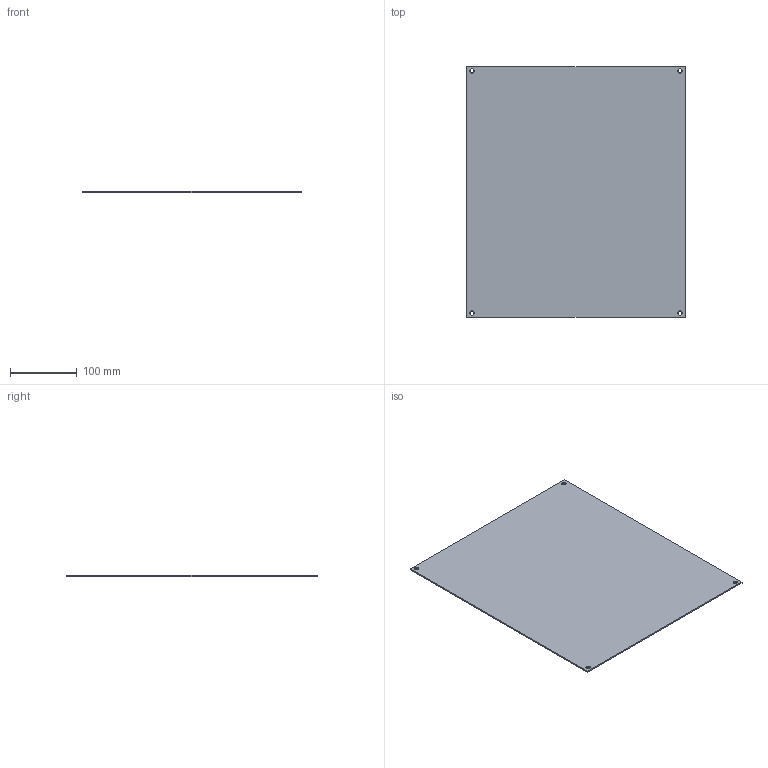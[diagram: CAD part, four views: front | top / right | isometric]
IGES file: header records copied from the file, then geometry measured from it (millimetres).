
Start section: SolidWorks IGES file using analytic representation for surfaces
Global section: file name: G:\3DRAW\ARCA\3DCAM\Solidpart\FIBOX_ABP1614.IGS; native system: SolidWorks 2009; preprocessor: SolidWorks 2009; author: KennethW; date: 100308.093834; units: millimetre
Bounding box: 327 x 375 x 2 mm (x, y, z)
Surface area: 247964.2 mm2 (no closed solid volume)
Topology: 0 solids, 0 shells, 14 faces, 184 edges, 184 vertices
Faces by surface type: revolution 8, bspline 6
